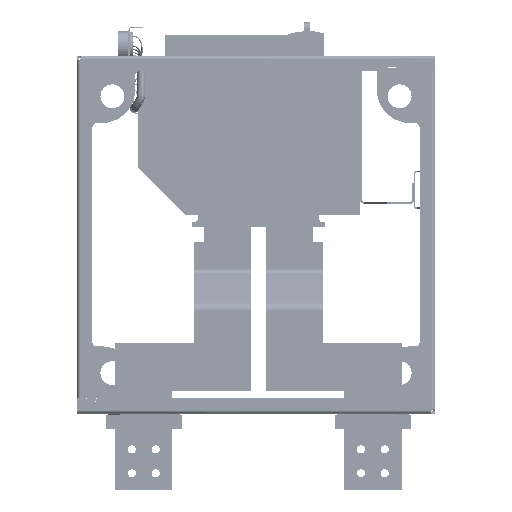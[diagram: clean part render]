
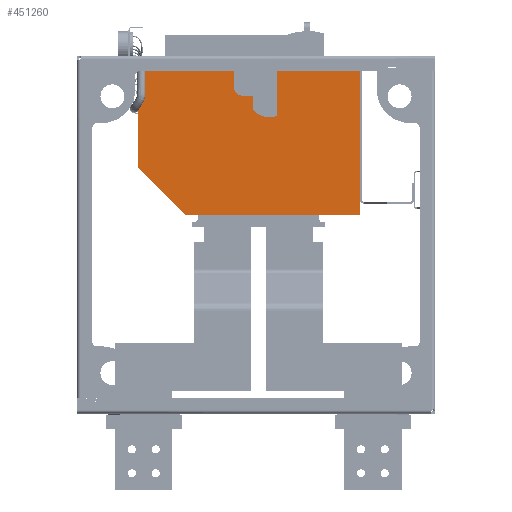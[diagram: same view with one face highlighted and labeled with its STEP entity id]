
A CAD part, left-side view. The second image highlights one B-rep face of the part: STEP entity #451260.
In plain terms, the highlighted planar face has unit normal (-1, 0, 0).
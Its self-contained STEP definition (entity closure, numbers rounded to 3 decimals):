
#12294 = EDGE_CURVE ( 'NONE', #186049, #469276, #345173, .T. ) ;
#31875 = VECTOR ( 'NONE', #578375, 1000. ) ;
#34843 = DIRECTION ( 'NONE',  ( 0., 0.707, 0.707 ) ) ;
#46318 = AXIS2_PLACEMENT_3D ( 'NONE', #651655, #145513, #473960 ) ;
#52969 = LINE ( 'NONE', #147453, #450178 ) ;
#61592 = LINE ( 'NONE', #546892, #431928 ) ;
#63439 = DIRECTION ( 'NONE',  ( 0., 0., 1. ) ) ;
#67900 = ORIENTED_EDGE ( 'NONE', *, *, #629426, .F. ) ;
#71828 = VERTEX_POINT ( 'NONE', #283534 ) ;
#74520 = CARTESIAN_POINT ( 'NONE',  ( -207., 521.5, 415.95 ) ) ;
#78185 = LINE ( 'NONE', #604653, #139884 ) ;
#90974 = DIRECTION ( 'NONE',  ( 0., 1., 0. ) ) ;
#98525 = DIRECTION ( 'NONE',  ( 0., 0., 1. ) ) ;
#109174 = CIRCLE ( 'NONE', #563347, 45. ) ;
#121168 = CARTESIAN_POINT ( 'NONE',  ( -207., 331.5, 740.95 ) ) ;
#133604 = VECTOR ( 'NONE', #707652, 1000. ) ;
#133720 = CARTESIAN_POINT ( 'NONE',  ( -207., 421.5, 740.95 ) ) ;
#134799 = AXIS2_PLACEMENT_3D ( 'NONE', #539876, #482980, #435907 ) ;
#139884 = VECTOR ( 'NONE', #98525, 1000. ) ;
#140495 = CARTESIAN_POINT ( 'NONE',  ( -207., 401.5, 665.95 ) ) ;
#141301 = CARTESIAN_POINT ( 'NONE',  ( -207., 421.5, 740.95 ) ) ;
#145513 = DIRECTION ( 'NONE',  ( 1., 0., 0. ) ) ;
#147453 = CARTESIAN_POINT ( 'NONE',  ( -207., 156.5, 592.765 ) ) ;
#150910 = CARTESIAN_POINT ( 'NONE',  ( -207., 346.495, 665.948 ) ) ;
#160568 = LINE ( 'NONE', #480405, #133604 ) ;
#171310 = VERTEX_POINT ( 'NONE', #525311 ) ;
#173566 = VERTEX_POINT ( 'NONE', #182260 ) ;
#180547 = VERTEX_POINT ( 'NONE', #263286 ) ;
#182239 = EDGE_CURVE ( 'NONE', #292907, #570110, #694781, .T. ) ;
#182260 = CARTESIAN_POINT ( 'NONE',  ( -207., 156.5, 415.95 ) ) ;
#185600 = VECTOR ( 'NONE', #676979, 1000. ) ;
#186002 = VECTOR ( 'NONE', #516180, 1000. ) ;
#186049 = VERTEX_POINT ( 'NONE', #402361 ) ;
#194412 = LINE ( 'NONE', #121168, #186002 ) ;
#202282 = ORIENTED_EDGE ( 'NONE', *, *, #182239, .F. ) ;
#215786 = VERTEX_POINT ( 'NONE', #520064 ) ;
#233322 = LINE ( 'NONE', #645292, #674931 ) ;
#235531 = EDGE_CURVE ( 'NONE', #215786, #722811, #450517, .T. ) ;
#239289 = EDGE_CURVE ( 'NONE', #529396, #180547, #544050, .T. ) ;
#240270 = EDGE_CURVE ( 'NONE', #180547, #428533, #194412, .T. ) ;
#241786 = VECTOR ( 'NONE', #568213, 1000. ) ;
#242882 = ORIENTED_EDGE ( 'NONE', *, *, #670052, .F. ) ;
#256478 = PLANE ( 'NONE',  #46318 ) ;
#263286 = CARTESIAN_POINT ( 'NONE',  ( -207., 331.5, 740.95 ) ) ;
#265398 = FACE_OUTER_BOUND ( 'NONE', #285351, .T. ) ;
#283534 = CARTESIAN_POINT ( 'NONE',  ( -207., 381.5, 665.95 ) ) ;
#285351 = EDGE_LOOP ( 'NONE', ( #202282, #67900, #307071, #585072, #682967, #322129, #390894, #549170, #242882, #398106, #727693, #726366, #491235, #499198 ) ) ;
#292907 = VERTEX_POINT ( 'NONE', #728645 ) ;
#307071 = ORIENTED_EDGE ( 'NONE', *, *, #405955, .F. ) ;
#312987 = CARTESIAN_POINT ( 'NONE',  ( -207., 377.128, 415.95 ) ) ;
#322129 = ORIENTED_EDGE ( 'NONE', *, *, #240270, .F. ) ;
#334146 = LINE ( 'NONE', #312987, #361124 ) ;
#345173 = CIRCLE ( 'NONE', #134799, 20. ) ;
#347185 = CARTESIAN_POINT ( 'NONE',  ( -207., 331.5, 623.52 ) ) ;
#358886 = EDGE_CURVE ( 'NONE', #446772, #529396, #109174, .T. ) ;
#361124 = VECTOR ( 'NONE', #90974, 1000. ) ;
#367937 = VECTOR ( 'NONE', #34843, 1000. ) ;
#385738 = CARTESIAN_POINT ( 'NONE',  ( -207., 381.5, 637.67 ) ) ;
#388121 = CARTESIAN_POINT ( 'NONE',  ( -207., 621.5, 740.95 ) ) ;
#390728 = DIRECTION ( 'NONE',  ( 0., -1., 0. ) ) ;
#390894 = ORIENTED_EDGE ( 'NONE', *, *, #239289, .F. ) ;
#398106 = ORIENTED_EDGE ( 'NONE', *, *, #625639, .F. ) ;
#402361 = CARTESIAN_POINT ( 'NONE',  ( -207., 421.5, 685.95 ) ) ;
#405955 = EDGE_CURVE ( 'NONE', #171310, #173566, #61592, .T. ) ;
#428533 = VERTEX_POINT ( 'NONE', #500581 ) ;
#431928 = VECTOR ( 'NONE', #731926, 1000. ) ;
#435907 = DIRECTION ( 'NONE',  ( 0., -1., 0. ) ) ;
#446772 = VERTEX_POINT ( 'NONE', #385738 ) ;
#450178 = VECTOR ( 'NONE', #542495, 1000. ) ;
#450517 = LINE ( 'NONE', #388121, #185600 ) ;
#451260 = ADVANCED_FACE ( 'NONE', ( #265398 ), #256478, .F. ) ;
#469276 = VERTEX_POINT ( 'NONE', #140495 ) ;
#473960 = DIRECTION ( 'NONE',  ( 0., -1., 0. ) ) ;
#480405 = CARTESIAN_POINT ( 'NONE',  ( -207., 156.5, 740.95 ) ) ;
#482980 = DIRECTION ( 'NONE',  ( -1., 0., 0. ) ) ;
#486596 = CARTESIAN_POINT ( 'NONE',  ( -207., 621.5, 515.95 ) ) ;
#491235 = ORIENTED_EDGE ( 'NONE', *, *, #235531, .F. ) ;
#499198 = ORIENTED_EDGE ( 'NONE', *, *, #572292, .F. ) ;
#500581 = CARTESIAN_POINT ( 'NONE',  ( -207., 156.5, 740.95 ) ) ;
#506642 = CARTESIAN_POINT ( 'NONE',  ( -207., 331.5, 623.52 ) ) ;
#508996 = VERTEX_POINT ( 'NONE', #513443 ) ;
#513443 = CARTESIAN_POINT ( 'NONE',  ( -207., 156.5, 725. ) ) ;
#516180 = DIRECTION ( 'NONE',  ( 0., -1., 0. ) ) ;
#520064 = CARTESIAN_POINT ( 'NONE',  ( -207., 621.5, 740.95 ) ) ;
#525311 = CARTESIAN_POINT ( 'NONE',  ( -207., 156.5, 447. ) ) ;
#526370 = VECTOR ( 'NONE', #63439, 1000. ) ;
#529396 = VERTEX_POINT ( 'NONE', #506642 ) ;
#539876 = CARTESIAN_POINT ( 'NONE',  ( -207., 401.5, 685.95 ) ) ;
#542495 = DIRECTION ( 'NONE',  ( 0., 0., -1. ) ) ;
#544023 = LINE ( 'NONE', #640063, #31875 ) ;
#544050 = LINE ( 'NONE', #347185, #526370 ) ;
#545365 = EDGE_CURVE ( 'NONE', #508996, #171310, #52969, .T. ) ;
#545974 = DIRECTION ( 'NONE',  ( 0., -1., 0. ) ) ;
#546892 = CARTESIAN_POINT ( 'NONE',  ( -207., 156.5, 740.95 ) ) ;
#549170 = ORIENTED_EDGE ( 'NONE', *, *, #358886, .F. ) ;
#563347 = AXIS2_PLACEMENT_3D ( 'NONE', #150910, #716449, #545974 ) ;
#568213 = DIRECTION ( 'NONE',  ( 0., 0., -1. ) ) ;
#570110 = VERTEX_POINT ( 'NONE', #486596 ) ;
#572292 = EDGE_CURVE ( 'NONE', #570110, #215786, #78185, .T. ) ;
#578375 = DIRECTION ( 'NONE',  ( 0., 0., -1. ) ) ;
#585072 = ORIENTED_EDGE ( 'NONE', *, *, #545365, .F. ) ;
#604653 = CARTESIAN_POINT ( 'NONE',  ( -207., 621.5, 515.95 ) ) ;
#625639 = EDGE_CURVE ( 'NONE', #469276, #71828, #233322, .T. ) ;
#629426 = EDGE_CURVE ( 'NONE', #173566, #292907, #334146, .T. ) ;
#640063 = CARTESIAN_POINT ( 'NONE',  ( -207., 381.5, 665.95 ) ) ;
#645292 = CARTESIAN_POINT ( 'NONE',  ( -207., 401.5, 665.95 ) ) ;
#651655 = CARTESIAN_POINT ( 'NONE',  ( -207., 377.128, 592.765 ) ) ;
#670052 = EDGE_CURVE ( 'NONE', #71828, #446772, #544023, .T. ) ;
#674931 = VECTOR ( 'NONE', #390728, 1000. ) ;
#676979 = DIRECTION ( 'NONE',  ( 0., -1., 0. ) ) ;
#682967 = ORIENTED_EDGE ( 'NONE', *, *, #695426, .F. ) ;
#694781 = LINE ( 'NONE', #74520, #367937 ) ;
#695426 = EDGE_CURVE ( 'NONE', #428533, #508996, #160568, .T. ) ;
#699373 = EDGE_CURVE ( 'NONE', #722811, #186049, #701132, .T. ) ;
#701132 = LINE ( 'NONE', #133720, #241786 ) ;
#707652 = DIRECTION ( 'NONE',  ( 0., 0., -1. ) ) ;
#716449 = DIRECTION ( 'NONE',  ( -1., 0., 0. ) ) ;
#722811 = VERTEX_POINT ( 'NONE', #141301 ) ;
#726366 = ORIENTED_EDGE ( 'NONE', *, *, #699373, .F. ) ;
#727693 = ORIENTED_EDGE ( 'NONE', *, *, #12294, .F. ) ;
#728645 = CARTESIAN_POINT ( 'NONE',  ( -207., 521.5, 415.95 ) ) ;
#731926 = DIRECTION ( 'NONE',  ( 0., 0., -1. ) ) ;
